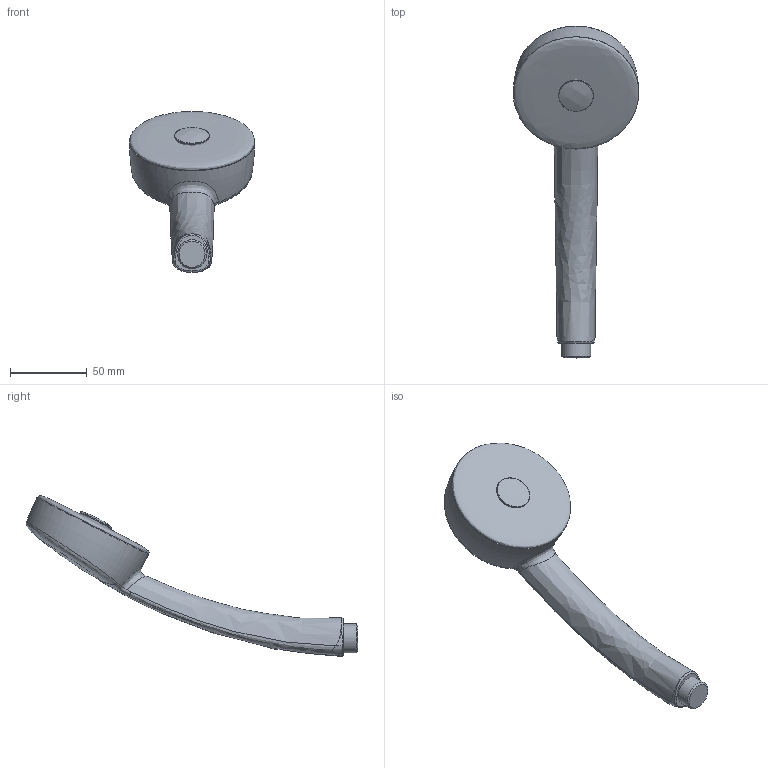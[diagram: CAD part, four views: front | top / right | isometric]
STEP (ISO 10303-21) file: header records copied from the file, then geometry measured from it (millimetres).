
FILE_DESCRIPTION (( 'STEP AP203' ), '1' );
FILE_NAME ('242060.STEP', '2017-03-09T05:46:38', ( '' ), ( '' ), 'SwSTEP 2.0', 'SolidWorks 2016', '' );
FILE_SCHEMA (( 'CONFIG_CONTROL_DESIGN' ));
Length unit declared in the file: millimetre
Products named in the file (1): 242060
Bounding box: 81.89 x 216.55 x 105.03 mm (x, y, z)
Volume: 218603.8 mm3; surface area: 40892.2 mm2
Topology: 3 solids, 3 shells, 47 faces, 112 edges, 74 vertices
Faces by surface type: bspline 32, plane 8, cylinder 5, torus 1, cone 1
Full cylindrical faces by diameter (mm): 4 x1, 4.3 x1, 18.982 x1, 22.55 x1, 22.65 x1
Entity records: 25324 total; most frequent: CARTESIAN_POINT 24487, ORIENTED_EDGE 196, EDGE_CURVE 98, B_SPLINE_CURVE_WITH_KNOTS 84, VERTEX_POINT 70, DIRECTION 60, EDGE_LOOP 60, FACE_OUTER_BOUND 55
